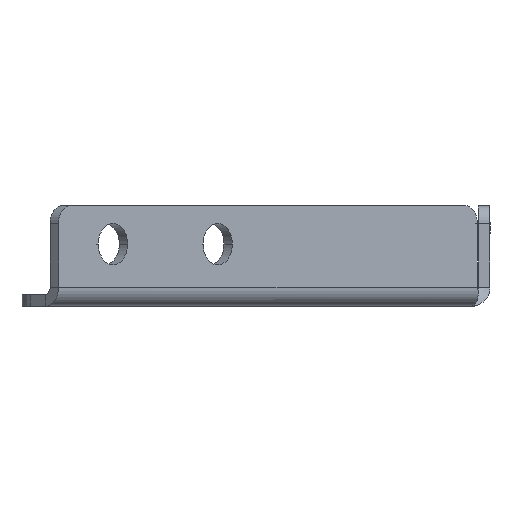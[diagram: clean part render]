
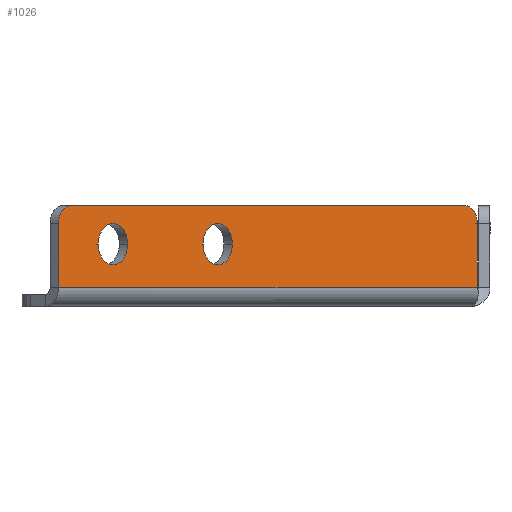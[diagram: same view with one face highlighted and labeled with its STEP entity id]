
A CAD part, left-side view. The second image highlights one B-rep face of the part: STEP entity #1026.
In plain terms, the highlighted planar face has unit normal (-0.707, -0.707, 0).
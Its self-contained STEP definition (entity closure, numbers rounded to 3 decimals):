
#3 = CARTESIAN_POINT ( 'NONE',  ( -45.962, 45.962, 8.5 ) ) ;
#9 = DIRECTION ( 'NONE',  ( -0.707, 0.707, 0. ) ) ;
#23 = CARTESIAN_POINT ( 'NONE',  ( 0., 0., 0. ) ) ;
#67 = LINE ( 'NONE', #207, #604 ) ;
#76 = EDGE_LOOP ( 'NONE', ( #77, #667 ) ) ;
#77 = ORIENTED_EDGE ( 'NONE', *, *, #1163, .F. ) ;
#87 = VECTOR ( 'NONE', #989, 1000. ) ;
#133 = AXIS2_PLACEMENT_3D ( 'NONE', #758, #245, #548 ) ;
#140 = DIRECTION ( 'NONE',  ( -0.707, -0.707, 0. ) ) ;
#162 = FACE_BOUND ( 'NONE', #76, .T. ) ;
#164 = DIRECTION ( 'NONE',  ( 0., 0., -1. ) ) ;
#207 = CARTESIAN_POINT ( 'NONE',  ( 0., 0., 15. ) ) ;
#238 = CARTESIAN_POINT ( 'NONE',  ( -43.487, 43.487, 8.5 ) ) ;
#245 = DIRECTION ( 'NONE',  ( -0.707, -0.707, 0. ) ) ;
#246 = CIRCLE ( 'NONE', #1166, 3.5 ) ;
#248 = DIRECTION ( 'NONE',  ( -0.707, 0.707, 0. ) ) ;
#250 = CARTESIAN_POINT ( 'NONE',  ( -61.165, 61.165, 8.5 ) ) ;
#259 = LINE ( 'NONE', #993, #1381 ) ;
#276 = VERTEX_POINT ( 'NONE', #1303 ) ;
#304 = EDGE_CURVE ( 'NONE', #612, #963, #246, .T. ) ;
#312 = EDGE_CURVE ( 'NONE', #1043, #856, #1202, .T. ) ;
#321 = DIRECTION ( 'NONE',  ( -0.707, 0.707, 0. ) ) ;
#335 = CIRCLE ( 'NONE', #1050, 3.5 ) ;
#336 = DIRECTION ( 'NONE',  ( -0.707, -0.707, 0. ) ) ;
#354 = VECTOR ( 'NONE', #164, 1000. ) ;
#366 = DIRECTION ( 'NONE',  ( -0.707, 0.707, 0. ) ) ;
#377 = AXIS2_PLACEMENT_3D ( 'NONE', #445, #872, #456 ) ;
#414 = CARTESIAN_POINT ( 'NONE',  ( -48.437, 48.437, 8.5 ) ) ;
#427 = EDGE_CURVE ( 'NONE', #1225, #992, #1072, .T. ) ;
#434 = CARTESIAN_POINT ( 'NONE',  ( -63.64, 63.64, 8.5 ) ) ;
#435 = CARTESIAN_POINT ( 'NONE',  ( -2.12, 2.12, 0. ) ) ;
#445 = CARTESIAN_POINT ( 'NONE',  ( -4.242, 4.242, 12. ) ) ;
#456 = DIRECTION ( 'NONE',  ( -0.707, 0.707, 0. ) ) ;
#470 = VERTEX_POINT ( 'NONE', #250 ) ;
#486 = ORIENTED_EDGE ( 'NONE', *, *, #637, .T. ) ;
#517 = EDGE_CURVE ( 'NONE', #856, #1225, #67, .T. ) ;
#521 = ORIENTED_EDGE ( 'NONE', *, *, #427, .T. ) ;
#548 = DIRECTION ( 'NONE',  ( -0.707, 0.707, 0. ) ) ;
#574 = CARTESIAN_POINT ( 'NONE',  ( -70.711, 70.711, 15. ) ) ;
#576 = AXIS2_PLACEMENT_3D ( 'NONE', #3, #336, #9 ) ;
#578 = ORIENTED_EDGE ( 'NONE', *, *, #740, .F. ) ;
#588 = FACE_OUTER_BOUND ( 'NONE', #1374, .T. ) ;
#602 = DIRECTION ( 'NONE',  ( 0.707, 0.707, 0. ) ) ;
#604 = VECTOR ( 'NONE', #965, 1000. ) ;
#608 = LINE ( 'NONE', #682, #354 ) ;
#612 = VERTEX_POINT ( 'NONE', #238 ) ;
#637 = EDGE_CURVE ( 'NONE', #821, #1043, #1276, .T. ) ;
#648 = AXIS2_PLACEMENT_3D ( 'NONE', #23, #602, #1030 ) ;
#658 = CIRCLE ( 'NONE', #674, 3.5 ) ;
#667 = ORIENTED_EDGE ( 'NONE', *, *, #304, .F. ) ;
#674 = AXIS2_PLACEMENT_3D ( 'NONE', #434, #750, #321 ) ;
#681 = ORIENTED_EDGE ( 'NONE', *, *, #1249, .T. ) ;
#682 = CARTESIAN_POINT ( 'NONE',  ( -72.832, 72.832, 0. ) ) ;
#694 = EDGE_CURVE ( 'NONE', #470, #276, #335, .T. ) ;
#732 = EDGE_LOOP ( 'NONE', ( #1061, #1112 ) ) ;
#740 = EDGE_CURVE ( 'NONE', #821, #1111, #259, .T. ) ;
#747 = FACE_BOUND ( 'NONE', #732, .T. ) ;
#750 = DIRECTION ( 'NONE',  ( -0.707, -0.707, 0. ) ) ;
#758 = CARTESIAN_POINT ( 'NONE',  ( -70.711, 70.711, 12. ) ) ;
#821 = VERTEX_POINT ( 'NONE', #938 ) ;
#824 = CARTESIAN_POINT ( 'NONE',  ( -2.12, 2.12, 12. ) ) ;
#856 = VERTEX_POINT ( 'NONE', #933 ) ;
#872 = DIRECTION ( 'NONE',  ( -0.707, -0.707, 0. ) ) ;
#933 = CARTESIAN_POINT ( 'NONE',  ( -4.242, 4.242, 15. ) ) ;
#938 = CARTESIAN_POINT ( 'NONE',  ( -2.12, 2.12, 1.2 ) ) ;
#963 = VERTEX_POINT ( 'NONE', #414 ) ;
#965 = DIRECTION ( 'NONE',  ( -0.707, 0.707, 0. ) ) ;
#989 = DIRECTION ( 'NONE',  ( 0., 0., 1. ) ) ;
#992 = VERTEX_POINT ( 'NONE', #1094 ) ;
#993 = CARTESIAN_POINT ( 'NONE',  ( -72.832, 72.832, 1.2 ) ) ;
#998 = ORIENTED_EDGE ( 'NONE', *, *, #517, .T. ) ;
#1026 = ADVANCED_FACE ( 'NONE', ( #162, #747, #588 ), #1102, .F. ) ;
#1030 = DIRECTION ( 'NONE',  ( -0.707, 0.707, 0. ) ) ;
#1043 = VERTEX_POINT ( 'NONE', #824 ) ;
#1050 = AXIS2_PLACEMENT_3D ( 'NONE', #1119, #140, #366 ) ;
#1061 = ORIENTED_EDGE ( 'NONE', *, *, #1107, .F. ) ;
#1062 = CARTESIAN_POINT ( 'NONE',  ( -45.962, 45.962, 8.5 ) ) ;
#1067 = DIRECTION ( 'NONE',  ( -0.707, 0.707, 0. ) ) ;
#1072 = CIRCLE ( 'NONE', #133, 3. ) ;
#1074 = DIRECTION ( 'NONE',  ( -0.707, -0.707, 0. ) ) ;
#1094 = CARTESIAN_POINT ( 'NONE',  ( -72.832, 72.832, 12. ) ) ;
#1102 = PLANE ( 'NONE',  #648 ) ;
#1107 = EDGE_CURVE ( 'NONE', #276, #470, #658, .T. ) ;
#1111 = VERTEX_POINT ( 'NONE', #1169 ) ;
#1112 = ORIENTED_EDGE ( 'NONE', *, *, #694, .F. ) ;
#1119 = CARTESIAN_POINT ( 'NONE',  ( -63.64, 63.64, 8.5 ) ) ;
#1163 = EDGE_CURVE ( 'NONE', #963, #612, #1367, .T. ) ;
#1166 = AXIS2_PLACEMENT_3D ( 'NONE', #1062, #1074, #1067 ) ;
#1169 = CARTESIAN_POINT ( 'NONE',  ( -72.832, 72.832, 1.2 ) ) ;
#1202 = CIRCLE ( 'NONE', #377, 3. ) ;
#1225 = VERTEX_POINT ( 'NONE', #574 ) ;
#1249 = EDGE_CURVE ( 'NONE', #992, #1111, #608, .T. ) ;
#1276 = LINE ( 'NONE', #435, #87 ) ;
#1303 = CARTESIAN_POINT ( 'NONE',  ( -66.114, 66.114, 8.5 ) ) ;
#1341 = ORIENTED_EDGE ( 'NONE', *, *, #312, .T. ) ;
#1367 = CIRCLE ( 'NONE', #576, 3.5 ) ;
#1374 = EDGE_LOOP ( 'NONE', ( #486, #1341, #998, #521, #681, #578 ) ) ;
#1381 = VECTOR ( 'NONE', #248, 1000. ) ;
